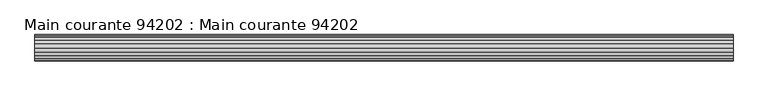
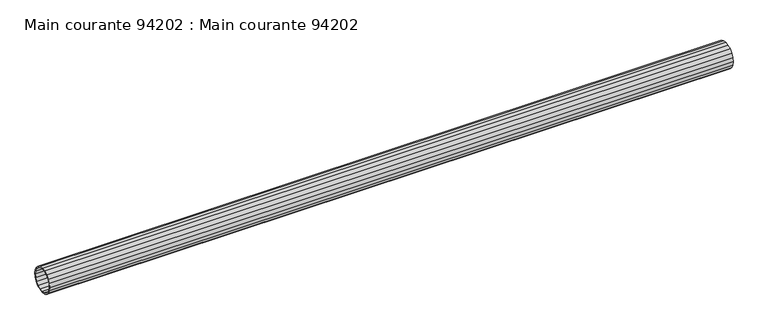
"""IFC4 building model written with IfcOpenShell, lengths in millimetres: beam geometry, Main courante 94202 : Main courante 94202."""

import ifcopenshell
import ifcopenshell.guid

model = None  # the IFC model being written
_history = None  # IfcOwnerHistory: only IFC2X3 demands one
_inside = {}  # id of a spatial element -> (the spatial element, [elements in it])
_under = {}  # id of a project, library or spatial element -> (it, [spatial elements below it])
_declared = {}  # id of a project -> (the project, [libraries it declares])
_typed = {}  # id of a type object -> (the type object, [elements of that type])
_made_of = {}  # id of a material, layer set ... -> (it, [elements and type objects made of it])


def new_model(schema):
    """Start an empty IFC model of exactly this schema.

    Asked for "IFC4X3", IfcOpenShell would pick the latest addendum, in which some entities
    have other attributes; the version numbers below select the first issue.
    IFC2X3 requires an IfcOwnerHistory on every rooted entity: one is made here for all.
    """
    global model, _history
    if schema == "IFC4X3":
        model = ifcopenshell.file(schema_version=(4, 3, 0, 0))
    else:
        model = ifcopenshell.file(schema=schema)
    _inside.clear()
    _under.clear()
    _declared.clear()
    _typed.clear()
    _made_of.clear()
    _history = None
    if model.schema == "IFC2X3":
        org = make("IfcOrganization", Name="unknown")
        user = make(
            "IfcPersonAndOrganization",
            ThePerson=make("IfcPerson", FamilyName="unknown"),
            TheOrganization=org,
        )
        app = make(
            "IfcApplication",
            ApplicationDeveloper=org,
            Version="unknown",
            ApplicationFullName="unknown",
            ApplicationIdentifier="unknown",
        )
        _history = make(
            "IfcOwnerHistory",
            OwningUser=user,
            OwningApplication=app,
            ChangeAction="ADDED",
            CreationDate=0,
        )
    return model


def make(cls, **values):
    """One entity of the class cls with the attributes given. An attribute that is None is left unset."""
    return model.create_entity(
        cls, **{name: value for name, value in values.items() if value is not None}
    )


def rooted(cls, **values):
    """An entity with a GlobalId (a new one), such as an element, a storey or a relation."""
    return make(cls, GlobalId=ifcopenshell.guid.new(), OwnerHistory=_history, **values)


def si_unit(unit_type, name, prefix=None):
    """IfcSIUnit, for example si_unit("LENGTHUNIT", "METRE", prefix="MILLI")."""
    return make("IfcSIUnit", UnitType=unit_type, Prefix=prefix, Name=name)


def assignment(units):
    """IfcUnitAssignment: the units of a project."""
    return None if units is None else make("IfcUnitAssignment", Units=units)


def point(xyz):
    """IfcCartesianPoint."""
    return None if xyz is None else make("IfcCartesianPoint", Coordinates=xyz)


def direction(xyz):
    """IfcDirection."""
    return None if xyz is None else make("IfcDirection", DirectionRatios=xyz)


def frame(location, z_axis=None, x_axis=None):
    """IfcAxis2Placement3D, a coordinate frame: its origin and axes. An axis left out is left unset."""
    return make(
        "IfcAxis2Placement3D",
        Location=point(location),
        Axis=direction(z_axis),
        RefDirection=direction(x_axis),
    )


def origin():
    """The frame at (0, 0, 0) with its axes left unset."""
    return frame((0.0, 0.0, 0.0))


def place(relative_to, where):
    """IfcLocalPlacement: puts the frame where relative to a parent placement (None: the world)."""
    return make(
        "IfcLocalPlacement", PlacementRelTo=relative_to, RelativePlacement=where
    )


def context(
    kind, dimensions, precision=None, world=None, true_north=None, identifier=None
):
    """IfcGeometricRepresentationContext, for example the 3D "Model" context."""
    return make(
        "IfcGeometricRepresentationContext",
        ContextIdentifier=identifier,
        ContextType=kind,
        CoordinateSpaceDimension=dimensions,
        Precision=precision,
        WorldCoordinateSystem=world,
        TrueNorth=true_north,
    )


def project(units=None, contexts=None):
    """IfcProject with its units and contexts."""
    return rooted(
        "IfcProject",
        Name="project",
        RepresentationContexts=contexts,
        UnitsInContext=assignment(units),
    )


def spatial(cls, under=None, at=None, **own):
    """A site, building, storey or space (cls), placed at a placement, below another one or the project."""
    s = rooted(cls, ObjectPlacement=at, **own)
    if under is not None:
        _under.setdefault(under.id(), (under, []))[1].append(s)
    return s


def polyline(points):
    """IfcPolyline through the points."""
    return make("IfcPolyline", Points=[point(p) for p in points])


def outline(outer, holes=None, kind="AREA"):
    """IfcArbitraryClosedProfileDef: a profile drawn as a closed curve; with holes, ...WithVoids."""
    if holes is None:
        return make("IfcArbitraryClosedProfileDef", ProfileType=kind, OuterCurve=outer)
    return make(
        "IfcArbitraryProfileDefWithVoids",
        ProfileType=kind,
        OuterCurve=outer,
        InnerCurves=holes,
    )


def extrude(swept, where, along, depth):
    """IfcExtrudedAreaSolid: the profile swept, set in the frame where, extruded along a direction by depth."""
    return make(
        "IfcExtrudedAreaSolid",
        SweptArea=swept,
        Position=where,
        ExtrudedDirection=direction(along),
        Depth=depth,
    )


def shape(context_of_items, identifier, shape_type, items):
    """IfcShapeRepresentation: the items that make up one representation, for example the "Body"."""
    return make(
        "IfcShapeRepresentation",
        ContextOfItems=context_of_items,
        RepresentationIdentifier=identifier,
        RepresentationType=shape_type,
        Items=items,
    )


def source(mapping_origin, context_of_items, identifier, shape_type, items):
    """IfcRepresentationMap: a shape defined once, which mapped items show again and again."""
    return make(
        "IfcRepresentationMap",
        MappingOrigin=mapping_origin,
        MappedRepresentation=shape(context_of_items, identifier, shape_type, items),
    )


def transform(
    local_origin,
    x_axis=None,
    y_axis=None,
    z_axis=None,
    scale=None,
    scale2=None,
    scale3=None,
    uniform=True,
):
    """IfcCartesianTransformationOperator3D, or its non-uniform kind. x_axis, y_axis, z_axis: its Axis1, 2, 3."""
    if uniform:
        return make(
            "IfcCartesianTransformationOperator3D",
            Axis1=direction(x_axis),
            Axis2=direction(y_axis),
            LocalOrigin=point(local_origin),
            Scale=scale,
            Axis3=direction(z_axis),
        )
    return make(
        "IfcCartesianTransformationOperator3DnonUniform",
        Axis1=direction(x_axis),
        Axis2=direction(y_axis),
        LocalOrigin=point(local_origin),
        Scale=scale,
        Axis3=direction(z_axis),
        Scale2=scale2,
        Scale3=scale3,
    )


def mapped(mapping_source, mapping_target):
    """IfcMappedItem: shows the shape of a source again, moved by a transform."""
    return make(
        "IfcMappedItem", MappingSource=mapping_source, MappingTarget=mapping_target
    )


def made_of(thing, what):
    """Note that an element or type object is made of a material, layer set ...; save() writes the relation."""
    if what is not None:
        _made_of.setdefault(what.id(), (what, []))[1].append(thing)
    return thing


def element(
    cls,
    number,
    at=None,
    inside=None,
    cuts=None,
    type_object=None,
    material=None,
    context=None,
    identifier="Body",
    shape_type=None,
    held_by="IfcProductDefinitionShape",
    body=None,
    shapes=None,
    **own,
):
    """One element of the class cls, such as IfcWall. Its Tag is "e" and its number.

    at: its placement. inside: the storey or other place that contains it. cuts: it is an
    opening in that element (IfcRelVoidsElement). A single representation is given by context,
    identifier, shape_type and body (its items); several are given by shapes. held_by: the class
    of the entity that holds the representations. save() writes the other relations.
    """
    e = rooted(cls, Tag="e%d" % number, ObjectPlacement=at, **own)
    if body is not None:
        shapes = [shape(context, identifier, shape_type, body)]
    if shapes is not None:
        e.Representation = make(held_by, Representations=shapes)
    if inside is not None:
        _inside.setdefault(inside.id(), (inside, []))[1].append(e)
    if cuts is not None:
        rooted(
            "IfcRelVoidsElement", RelatingBuildingElement=cuts, RelatedOpeningElement=e
        )
    if type_object is not None:
        _typed.setdefault(type_object.id(), (type_object, []))[1].append(e)
    return made_of(e, material)


def aggregate(whole, parts):
    """IfcRelAggregates: a whole, such as a stair, and the parts it consists of."""
    return rooted("IfcRelAggregates", RelatingObject=whole, RelatedObjects=parts)


def save(model, path):
    """Write the relations noted so far, then the file.

    IfcRelAggregates (storeys below a building ...), IfcRelContainedInSpatialStructure (elements
    in a storey), IfcRelDefinesByType, IfcRelAssociatesMaterial and IfcRelDeclares: one each for
    every whole, place, type object, material and project.
    """
    for whole, parts in _under.values():
        aggregate(whole, parts)
    for where, things in _inside.values():
        rooted(
            "IfcRelContainedInSpatialStructure",
            RelatedElements=things,
            RelatingStructure=where,
        )
    for kind, things in _typed.values():
        rooted("IfcRelDefinesByType", RelatedObjects=things, RelatingType=kind)
    for what, things in _made_of.values():
        rooted("IfcRelAssociatesMaterial", RelatedObjects=things, RelatingMaterial=what)
    for by, libraries in _declared.values():
        rooted("IfcRelDeclares", RelatingContext=by, RelatedDefinitions=libraries)
    model.write(path)


def main_courante_94202_main_courante_94202_9cc526ed(model_context):
    return source(origin(), model_context, "Body", "SweptSolid", [
        extrude(outline(polyline([(-35766.5, 8765.0), (-35765.3180149, 8772.4627604), (-35761.8877604, 8779.1950138), (-35756.5450138, 8784.5377604), (-35749.8127604, 8787.9680149), (-35742.35, 8789.15), (-35734.8872396, 8787.9680149), (-35728.1549862, 8784.5377604), (-35722.8122396, 8779.1950138), (-35719.3819851, 8772.4627604), (-35718.2, 8765.0), (-35719.3819851, 8757.5372396), (-35722.8122396, 8750.8049862), (-35728.1549862, 8745.4622396), (-35734.8872396, 8742.0319851), (-35742.35, 8740.85), (-35749.8127604, 8742.0319851), (-35756.5450138, 8745.4622396), (-35761.8877604, 8750.8049862), (-35765.3180149, 8757.5372396), (-35766.5, 8765.0)]), holes=[polyline([(-35720.7, 8765.0), (-35721.7596264, 8771.6902179), (-35724.8347821, 8777.7255507), (-35729.6244493, 8782.5152179), (-35735.6597821, 8785.5903736), (-35742.35, 8786.65), (-35749.0402179, 8785.5903736), (-35755.0755507, 8782.5152179), (-35759.8652179, 8777.7255507), (-35762.9403736, 8771.6902179), (-35764.0, 8765.0), (-35762.9403736, 8758.3097821), (-35759.8652179, 8752.2744493), (-35755.0755507, 8747.4847821), (-35749.0402179, 8744.4096264), (-35742.35, 8743.35), (-35735.6597821, 8744.4096264), (-35729.6244493, 8747.4847821), (-35724.8347821, 8752.2744493), (-35721.7596264, 8758.3097821), (-35720.7, 8765.0)])]), frame((12800.9999999, 0.0, 0.0), z_axis=(1.0, 0.0, 0.0), x_axis=(0.0, 1.0, 0.0)), (0.0, 0.0, 1.0), 1285.5),
    ])


if __name__ == "__main__":
    model = new_model("IFC4")
    model_context = context("Model", 3, world=origin())
    ifc_project = project(units=[si_unit("LENGTHUNIT", "METRE", prefix="MILLI")], contexts=[model_context])
    site = spatial("IfcSite", under=ifc_project)
    building = spatial("IfcBuilding", under=site)
    placement = place(None, origin())
    main_courante_94202_main_courante_94202_shape = main_courante_94202_main_courante_94202_9cc526ed(model_context)
    element("IfcBeam", 1, ObjectType="Main courante 94202 : Main courante 94202", at=placement, inside=building, context=model_context, shape_type="MappedRepresentation", body=[
        mapped(main_courante_94202_main_courante_94202_shape, transform((0.0, 0.0, 0.0), x_axis=(1.0, 0.0, 0.0), y_axis=(0.0, 1.0, 0.0), z_axis=(0.0, 0.0, 1.0))),
    ])
    save(model, "model.ifc")
